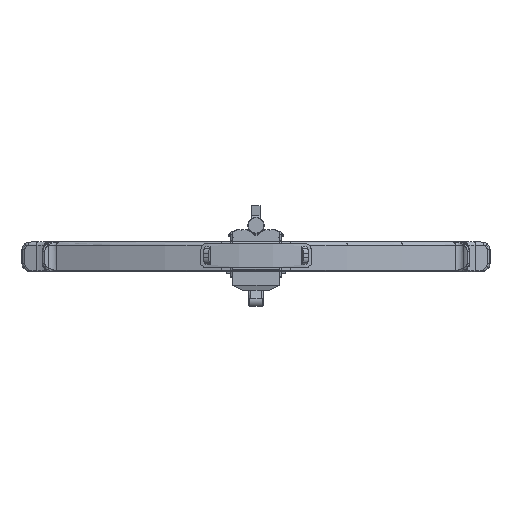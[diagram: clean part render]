
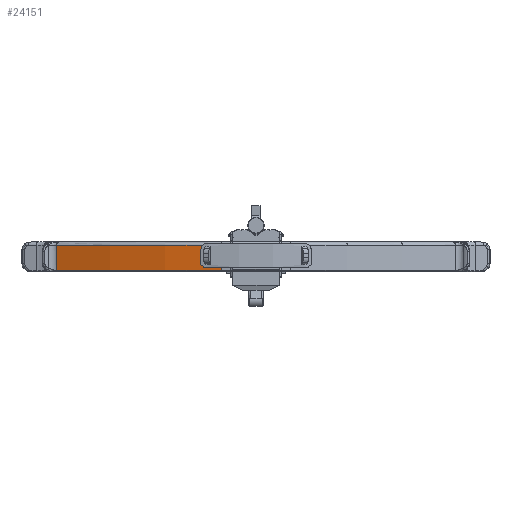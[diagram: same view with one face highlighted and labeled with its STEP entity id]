
A CAD part, top view. The second image highlights one B-rep face of the part: STEP entity #24151.
In plain terms, the highlighted cylindrical face has radius 629.082 mm (diameter 1258.16 mm), a partial arc.
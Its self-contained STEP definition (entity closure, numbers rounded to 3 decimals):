
#2231=CYLINDRICAL_SURFACE('',#25915,629.082);
#3209=FACE_OUTER_BOUND('',#4633,.T.);
#4633=EDGE_LOOP('',(#20545,#20546,#20547,#20548));
#6331=LINE('',#46353,#8305);
#6334=LINE('',#46365,#8308);
#8305=VECTOR('',#30234,10.);
#8308=VECTOR('',#30249,10.);
#9569=CIRCLE('',#25912,629.082);
#9571=CIRCLE('',#25916,629.082);
#11387=VERTEX_POINT('',#46221);
#11393=VERTEX_POINT('',#46346);
#11394=VERTEX_POINT('',#46356);
#11396=VERTEX_POINT('',#46364);
#14562=EDGE_CURVE('',#11393,#11387,#6331,.T.);
#14564=EDGE_CURVE('',#11394,#11393,#9569,.T.);
#14567=EDGE_CURVE('',#11396,#11394,#6334,.T.);
#14568=EDGE_CURVE('',#11387,#11396,#9571,.T.);
#20545=ORIENTED_EDGE('',*,*,#14562,.F.);
#20546=ORIENTED_EDGE('',*,*,#14564,.F.);
#20547=ORIENTED_EDGE('',*,*,#14567,.F.);
#20548=ORIENTED_EDGE('',*,*,#14568,.F.);
#24151=ADVANCED_FACE('',(#3209),#2231,.T.);
#25912=AXIS2_PLACEMENT_3D('',#46358,#30240,#30241);
#25915=AXIS2_PLACEMENT_3D('',#46363,#30247,#30248);
#25916=AXIS2_PLACEMENT_3D('',#46366,#30250,#30251);
#30234=DIRECTION('',(0.,1.,0.));
#30240=DIRECTION('center_axis',(0.,-1.,0.));
#30241=DIRECTION('ref_axis',(-0.985,0.,-0.174));
#30247=DIRECTION('center_axis',(0.,1.,0.));
#30248=DIRECTION('ref_axis',(0.985,0.,0.174));
#30249=DIRECTION('',(0.,-1.,0.));
#30250=DIRECTION('center_axis',(0.,1.,0.));
#30251=DIRECTION('ref_axis',(-0.335,0.,0.942));
#46221=CARTESIAN_POINT('',(-199.423,7.909,451.76));
#46346=CARTESIAN_POINT('',(-199.423,-17.091,451.76));
#46353=CARTESIAN_POINT('',(-199.423,-18.091,451.76));
#46356=CARTESIAN_POINT('',(-34.536,-17.091,508.492));
#46358=CARTESIAN_POINT('Origin',(85.714,-17.091,-108.989));
#46363=CARTESIAN_POINT('Origin',(85.714,-18.091,-108.989));
#46364=CARTESIAN_POINT('',(-34.536,7.909,508.492));
#46365=CARTESIAN_POINT('',(-34.536,-18.091,508.492));
#46366=CARTESIAN_POINT('Origin',(85.714,7.909,-108.989));
